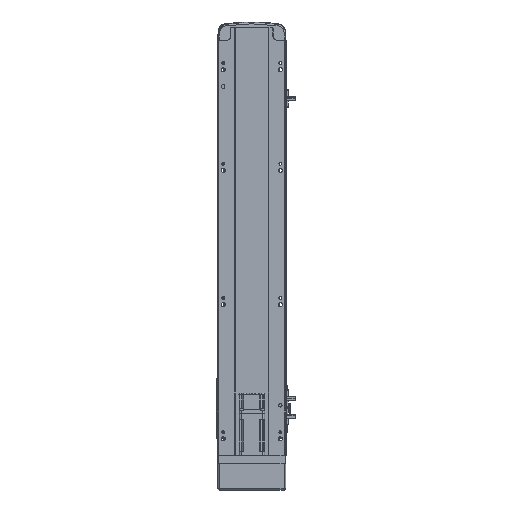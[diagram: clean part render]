
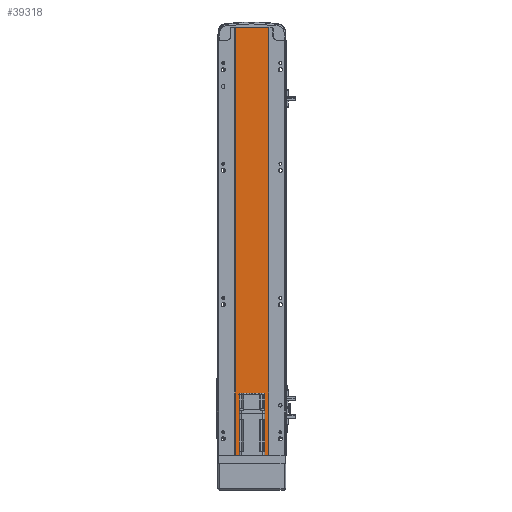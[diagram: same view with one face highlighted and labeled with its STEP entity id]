
A CAD part, front view. The second image highlights one B-rep face of the part: STEP entity #39318.
In plain terms, the highlighted planar face has unit normal (0, -1, 0).
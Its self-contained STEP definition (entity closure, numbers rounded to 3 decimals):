
#425 = VECTOR ( 'NONE', #51659, 1000. ) ;
#779 = CARTESIAN_POINT ( 'NONE',  ( -24.5, 2., 0. ) ) ;
#4309 = CARTESIAN_POINT ( 'NONE',  ( -24.5, 2., 637. ) ) ;
#10747 = ORIENTED_EDGE ( 'NONE', *, *, #11706, .F. ) ;
#11706 = EDGE_CURVE ( 'NONE', #51442, #16417, #23031, .T. ) ;
#14024 = ORIENTED_EDGE ( 'NONE', *, *, #53924, .T. ) ;
#15298 = LINE ( 'NONE', #53276, #34841 ) ;
#16417 = VERTEX_POINT ( 'NONE', #54601 ) ;
#16686 = VECTOR ( 'NONE', #38889, 1000. ) ;
#18572 = LINE ( 'NONE', #20501, #425 ) ;
#18680 = VERTEX_POINT ( 'NONE', #779 ) ;
#19932 = VECTOR ( 'NONE', #28002, 1000. ) ;
#20501 = CARTESIAN_POINT ( 'NONE',  ( -24.5, 2., 637. ) ) ;
#20605 = CARTESIAN_POINT ( 'NONE',  ( 24.5, 2., 637. ) ) ;
#23031 = LINE ( 'NONE', #20605, #16686 ) ;
#25356 = CARTESIAN_POINT ( 'NONE',  ( 0., 2., 637. ) ) ;
#27285 = CARTESIAN_POINT ( 'NONE',  ( 24.5, 2., 637. ) ) ;
#27822 = CARTESIAN_POINT ( 'NONE',  ( 0., 2., 0. ) ) ;
#28002 = DIRECTION ( 'NONE',  ( 1., 0., 0. ) ) ;
#29829 = DIRECTION ( 'NONE',  ( 0., 0., 1. ) ) ;
#30292 = VERTEX_POINT ( 'NONE', #4309 ) ;
#31065 = DIRECTION ( 'NONE',  ( 1., 0., 0. ) ) ;
#33930 = FACE_OUTER_BOUND ( 'NONE', #49153, .T. ) ;
#34841 = VECTOR ( 'NONE', #31065, 1000. ) ;
#38420 = AXIS2_PLACEMENT_3D ( 'NONE', #25356, #56523, #29829 ) ;
#38889 = DIRECTION ( 'NONE',  ( 0., 0., -1. ) ) ;
#39318 = ADVANCED_FACE ( 'NONE', ( #33930 ), #47479, .F. ) ;
#44261 = LINE ( 'NONE', #27822, #19932 ) ;
#47479 = PLANE ( 'NONE',  #38420 ) ;
#49153 = EDGE_LOOP ( 'NONE', ( #52605, #10747, #55694, #14024 ) ) ;
#51442 = VERTEX_POINT ( 'NONE', #27285 ) ;
#51659 = DIRECTION ( 'NONE',  ( 0., 0., -1. ) ) ;
#51805 = EDGE_CURVE ( 'NONE', #30292, #51442, #15298, .T. ) ;
#52605 = ORIENTED_EDGE ( 'NONE', *, *, #54839, .T. ) ;
#53276 = CARTESIAN_POINT ( 'NONE',  ( -24.5, 2., 637. ) ) ;
#53924 = EDGE_CURVE ( 'NONE', #30292, #18680, #18572, .T. ) ;
#54601 = CARTESIAN_POINT ( 'NONE',  ( 24.5, 2., 0. ) ) ;
#54839 = EDGE_CURVE ( 'NONE', #18680, #16417, #44261, .T. ) ;
#55694 = ORIENTED_EDGE ( 'NONE', *, *, #51805, .F. ) ;
#56523 = DIRECTION ( 'NONE',  ( 0., 1., 0. ) ) ;
